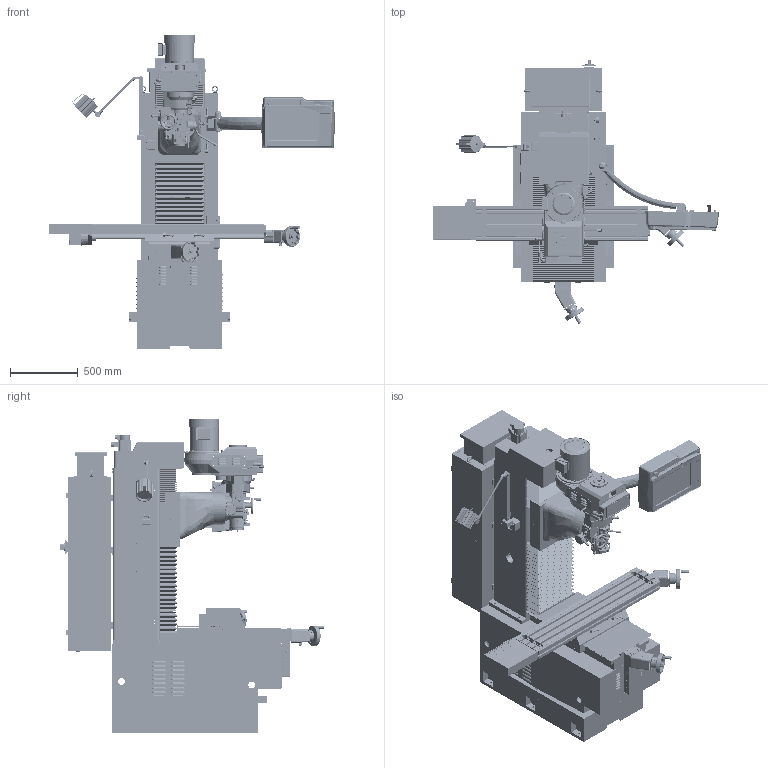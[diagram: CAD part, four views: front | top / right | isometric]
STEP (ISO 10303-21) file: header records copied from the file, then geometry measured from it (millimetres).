
FILE_DESCRIPTION( ( 'Unknown' ), '1' );
FILE_NAME( '//SERVERENG2/Data/DRAWINGS/29074.stp', 'Unknown', ( 'Unknown' ), ( 'Unknown' ), 'PSStep 14.0', 'Unknown', ' ' );
FILE_SCHEMA( ( 'AUTOMOTIVE_DESIGN { 1 0 10303 214 1 1 1 1 }' ) );
Length unit declared in the file: millimetre
Products named in the file (247): Assem1; -oa0
Assembly tree (246 placements, depth 2):
  Assem1
    -oa0
    -oa0
    -oa0
    -oa0
    -oa0
    -oa0
    -oa0
    -oa0
    -oa0
    -oa0
    -oa0
    -oa0
    -oa0
    -oa0
    -oa0
    -oa0
    -oa0
    -oa0
    -oa0
    -oa0
    -oa0
    -oa0
    -oa0
    -oa0
    -oa0
    -oa0
    -oa0
    -oa0
    -oa0
    -oa0
    -oa0
    -oa0
    -oa0
    -oa0
    -oa0
    -oa0
    -oa0
    -oa0
    -oa0
    -oa0
    -oa0
    -oa0
    -oa0
    -oa0
    -oa0
    -oa0
    -oa0
    -oa0
    -oa0
    -oa0
    -oa0
    -oa0
    -oa0
    -oa0
    -oa0
    -oa0
    -oa0
    -oa0
    -oa0
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Bounding box: 2106.76 x 1951.7 x 2319.05 mm (x, y, z)
Surface area: 28565501.9 mm2 (no closed solid volume)
Topology: 0 solids, 3451 shells, 3452 faces, 23029 edges, 22505 vertices
Faces by surface type: plane 1933, cylinder 892, bspline 203, cone 191, sphere 144, torus 81, revolution 5, extrusion 3
Full cylindrical faces by diameter (mm): 6 x1, 6.35 x2, 6.411 x1, 7.112 x1, 7.142 x1, 7.925 x1, 8 x2, 9.095 x2, 9.3 x1, 9.5 x5, 9.525 x6, 9.652 x2, 10 x11, 10.16 x2, 10.678 x1, 10.693 x2, 11 x6, 11.113 x2, 11.326 x12, 11.445 x2, 12 x1, 12.499 x1, 12.5 x1, 12.7 x19, 12.878 x2, 13 x3, 13.3 x2, 13.97 x1, 14 x4, 14.406 x1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
Entity records: 264303 total; most frequent: CARTESIAN_POINT 89317, DIRECTION 35597, ORIENTED_EDGE 22430, EDGE_CURVE 22430, VERTEX_POINT 22430, VECTOR 12411, LINE 12408, AXIS2_PLACEMENT_3D 11590
